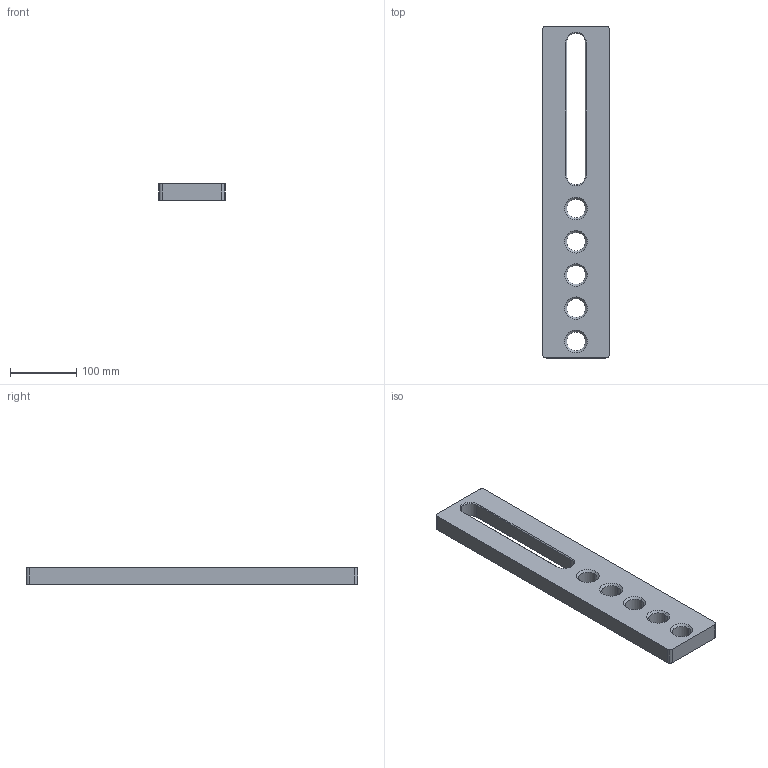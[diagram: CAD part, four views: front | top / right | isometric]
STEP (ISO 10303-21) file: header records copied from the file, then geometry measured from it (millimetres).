
FILE_DESCRIPTION(('STEP AP214'),'1');
FILE_NAME('C:/Users/E.Bergmann/Desktop/Formate Neu/280430.STP','2011-08-31T10:09:43',(' '),(' '),'Spatial InterOp 3D',' ',' ');
FILE_SCHEMA(('automotive_design'));
Length unit declared in the file: millimetre
Products named in the file (1): Quader
Bounding box: 100 x 500 x 25 mm (x, y, z)
Volume: 1009990 mm3; surface area: 131989.9 mm2
Topology: 1 solids, 1 shells, 60 faces, 146 edges, 88 vertices
Faces by surface type: cone 28, cylinder 20, plane 12
Entity records: 2286 total; most frequent: DIRECTION 340, CARTESIAN_POINT 295, ORIENTED_EDGE 292, EDGE_CURVE 146, AXIS2_PLACEMENT_3D 133, VERTEX_POINT 88, LINE 74, VECTOR 74
